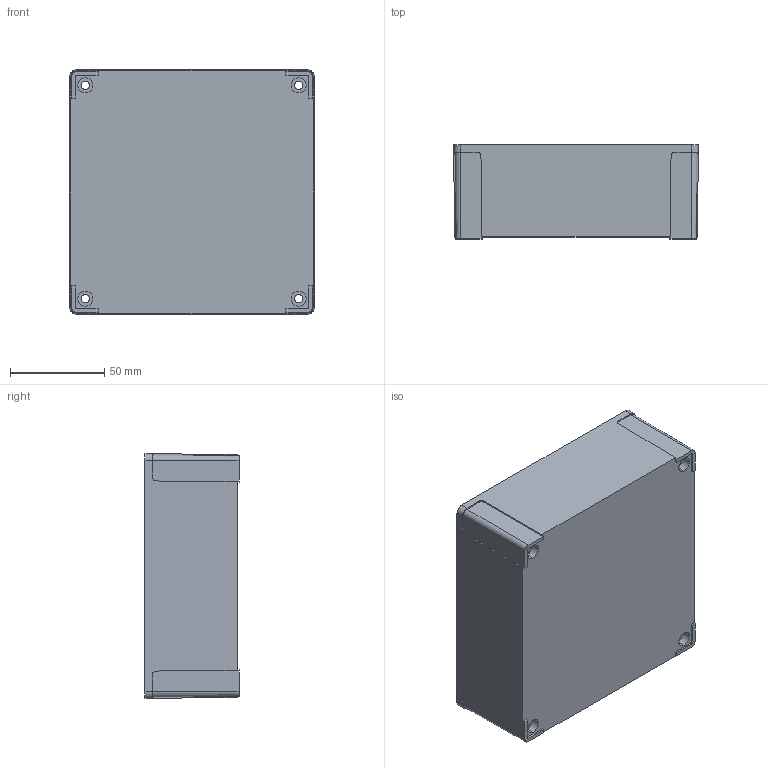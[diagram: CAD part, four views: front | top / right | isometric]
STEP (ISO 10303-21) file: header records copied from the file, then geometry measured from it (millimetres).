
FILE_DESCRIPTION (( 'STEP AP203' ), '1' );
FILE_NAME ('FIBOX_MNX125HB.STEP', '2005-06-30T06:59:15', ( ' ' ), ( ' ' ), 'SwSTEP 2.0', 'SolidWorks 2005143', '' );
FILE_SCHEMA (( 'CONFIG_CONTROL_DESIGN' ));
Length unit declared in the file: millimetre
Products named in the file (1): FIBOX_MNX125HB
Bounding box: 130.1 x 50 x 130.1 mm (x, y, z)
Volume: 165869.7 mm3; surface area: 88550.7 mm2
Topology: 1 solids, 1 shells, 290 faces, 717 edges, 478 vertices
Faces by surface type: plane 162, cylinder 108, cone 20
Entity records: 8806 total; most frequent: CARTESIAN_POINT 1630, DIRECTION 1515, ORIENTED_EDGE 1434, EDGE_CURVE 717, AXIS2_PLACEMENT_3D 539, VERTEX_POINT 478, VECTOR 437, LINE 437
